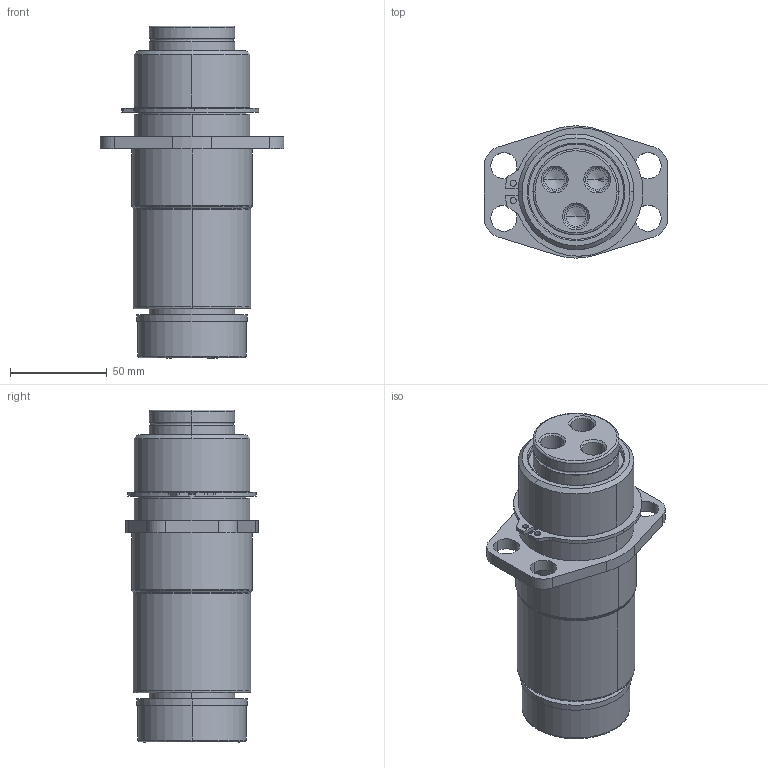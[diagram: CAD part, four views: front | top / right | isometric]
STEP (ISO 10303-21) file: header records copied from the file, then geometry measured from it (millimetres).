
FILE_DESCRIPTION (( 'STEP AP214' ), '1' );
FILE_NAME ('GK180-N5-2-TB-M-XXX.STEP', '2020-09-22T12:14:09', ( '' ), ( '' ), 'SwSTEP 2.0', 'SolidWorks 2017', '' );
FILE_SCHEMA (( 'AUTOMOTIVE_DESIGN' ));
Length unit declared in the file: inch
Products named in the file (7): GK180-M-XXX-GuidePin; RetainingRing; GK180-N5-2-TB-M-XXX; GK1.75-N5-2-TB-Base; GK180-DampeningWasher
Assembly tree (6 placements, depth 3):
  GK180-N5-2-TB-M-XXX
    GK1.75-N5-2-TB-Base
      GK1.75-N5-2-TB-Base
      RetainingRing
    GK180-M-XXX-GuidePin
      GK180-M-XXX-GuidePin
      GK180-DampeningWasher
Bounding box: 94.79 x 68.33 x 171.45 mm (x, y, z)
Volume: 463967.6 mm3; surface area: 91116.4 mm2
Topology: 4 solids, 4 shells, 135 faces, 315 edges, 191 vertices
Faces by surface type: cylinder 65, plane 26, cone 24, bspline 20
Entity records: 4747 total; most frequent: CARTESIAN_POINT 1196, DIRECTION 725, ORIENTED_EDGE 618, EDGE_CURVE 309, AXIS2_PLACEMENT_3D 300, VERTEX_POINT 191, CIRCLE 174, EDGE_LOOP 160
